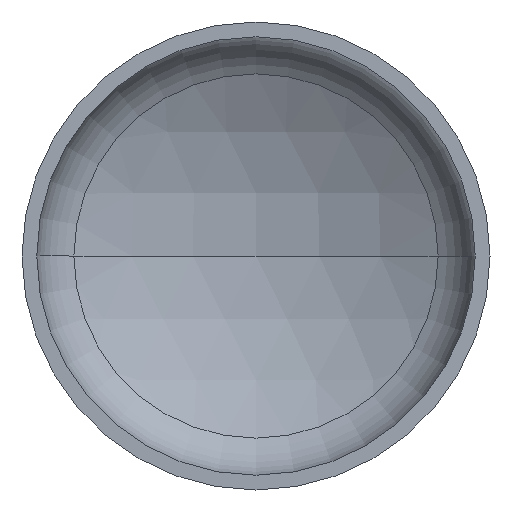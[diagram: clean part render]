
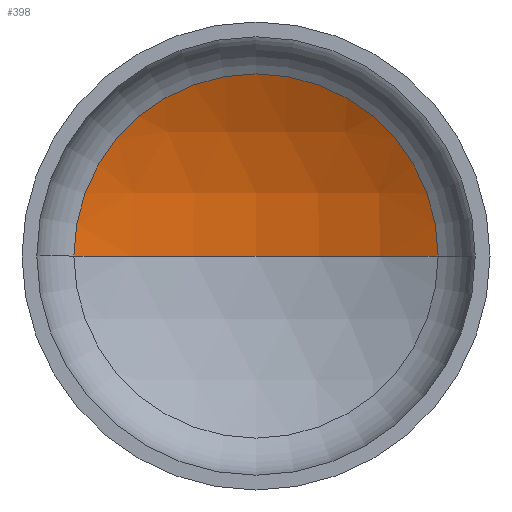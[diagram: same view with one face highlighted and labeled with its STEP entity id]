
A CAD part, front view. The second image highlights one B-rep face of the part: STEP entity #398.
In plain terms, the highlighted spherical face has radius 1920 mm.
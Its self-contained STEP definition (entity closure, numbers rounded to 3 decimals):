
#9 = DIRECTION ( 'NONE',  ( 1., 0., 0. ) ) ;
#14 = DIRECTION ( 'NONE',  ( 0., 0., 1. ) ) ;
#26 = ORIENTED_EDGE ( 'NONE', *, *, #100, .T. ) ;
#30 = VERTEX_POINT ( 'NONE', #282 ) ;
#48 = AXIS2_PLACEMENT_3D ( 'NONE', #238, #14, #9 ) ;
#51 = AXIS2_PLACEMENT_3D ( 'NONE', #386, #384, #346 ) ;
#53 = AXIS2_PLACEMENT_3D ( 'NONE', #200, #203, #146 ) ;
#56 = DIRECTION ( 'NONE',  ( 0., 0., -1. ) ) ;
#62 = EDGE_LOOP ( 'NONE', ( #104, #88, #26 ) ) ;
#88 = ORIENTED_EDGE ( 'NONE', *, *, #103, .T. ) ;
#100 = EDGE_CURVE ( 'NONE', #114, #163, #395, .T. ) ;
#103 = EDGE_CURVE ( 'NONE', #30, #114, #345, .T. ) ;
#104 = ORIENTED_EDGE ( 'NONE', *, *, #110, .F. ) ;
#107 = CARTESIAN_POINT ( 'NONE',  ( 0., -1234.247, 0. ) ) ;
#110 = EDGE_CURVE ( 'NONE', #30, #163, #290, .T. ) ;
#114 = VERTEX_POINT ( 'NONE', #165 ) ;
#138 = AXIS2_PLACEMENT_3D ( 'NONE', #107, #56, #230 ) ;
#146 = DIRECTION ( 'NONE',  ( 1., 0., 0. ) ) ;
#163 = VERTEX_POINT ( 'NONE', #370 ) ;
#165 = CARTESIAN_POINT ( 'NONE',  ( 933.987, 443.272, 0. ) ) ;
#200 = CARTESIAN_POINT ( 'NONE',  ( 0., 443.272, 0. ) ) ;
#203 = DIRECTION ( 'NONE',  ( 0., -1., 0. ) ) ;
#230 = DIRECTION ( 'NONE',  ( -1., 0., 0. ) ) ;
#238 = CARTESIAN_POINT ( 'NONE',  ( 0., -1234.247, 0. ) ) ;
#282 = CARTESIAN_POINT ( 'NONE',  ( 0., 685.753, 0. ) ) ;
#290 = CIRCLE ( 'NONE', #48, 1920. ) ;
#300 = FACE_OUTER_BOUND ( 'NONE', #62, .T. ) ;
#345 = CIRCLE ( 'NONE', #51, 1920. ) ;
#346 = DIRECTION ( 'NONE',  ( -1., 0., 0. ) ) ;
#370 = CARTESIAN_POINT ( 'NONE',  ( -933.987, 443.272, 0. ) ) ;
#384 = DIRECTION ( 'NONE',  ( 0., 0., -1. ) ) ;
#386 = CARTESIAN_POINT ( 'NONE',  ( 0., -1234.247, 0. ) ) ;
#395 = CIRCLE ( 'NONE', #53, 933.987 ) ;
#397 = SPHERICAL_SURFACE ( 'NONE', #138, 1920. ) ;
#398 = ADVANCED_FACE ( 'NONE', ( #300 ), #397, .F. ) ;
